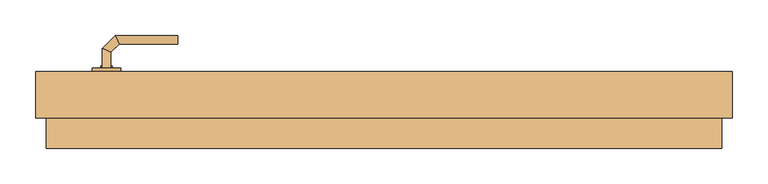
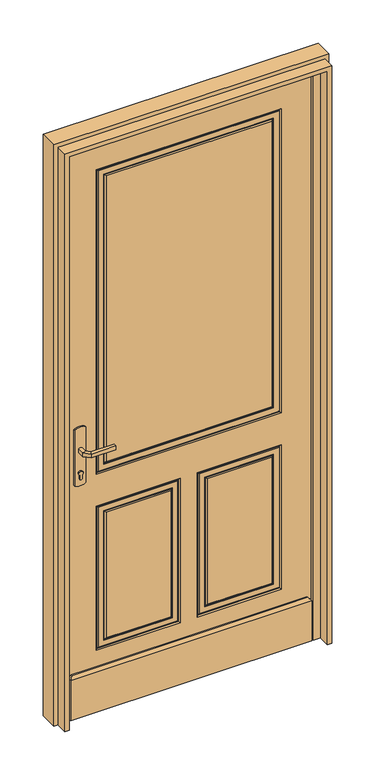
"""IFC4 building model written with IfcOpenShell, lengths in millimetres: door geometry, Entrée (avec angle d'ouverture) : PP Avec moulures (0.90 m x 2.15 m)."""

from ifc_helpers import new_model, si_unit, point, frame, frame_2d, origin, place, context, project, spatial, polyline, circle_curve, ellipse_curve, trimmed, segment, composite_curve, outline, extrude, faceted_brep, source, transform, mapped, element, save
from ifc_brep_helpers import plane_surface, cylinder_surface, advanced_brep


def door_280daffa(model_context):
    return source(origin(), model_context, "Body", "SolidModel", [
        extrude(outline(composite_curve([segment(trimmed(circle_curve(frame_2d((904.6410162, -400.0)), 40.0), [point((870.0, -420.0))], [point((870.0, -380.0))], False, "CARTESIAN"), True, "CONTINUOUS"), segment(polyline([(870.0, -380.0), (1080.0, -380.0)]), True, "CONTINUOUS"), segment(trimmed(circle_curve(frame_2d((1045.3589838, -400.0)), 40.0), [point((1080.0, -380.0))], [point((1080.0, -420.0))], False, "CARTESIAN"), True, "CONTINUOUS"), segment(polyline([(1080.0, -420.0), (870.0, -420.0)]), True, "CONTINUOUS")], self_intersect=False)), frame((0.0, 98.0, 0.0), z_axis=(0.0, 1.0, 0.0), x_axis=(0.0, 0.0, 1.0)), (0.0, 0.0, 1.0), 5.0),
        extrude(outline(composite_curve([segment(trimmed(circle_curve(frame_2d((1045.3589838, -400.0)), 40.0), [point((1080.0, -380.0))], [point((1080.0, -420.0))], False, "CARTESIAN"), True, "CONTINUOUS"), segment(polyline([(1080.0, -420.0), (870.0, -420.0)]), True, "CONTINUOUS"), segment(trimmed(circle_curve(frame_2d((904.6410162, -400.0)), 40.0), [point((870.0, -420.0))], [point((870.0, -380.0))], False, "CARTESIAN"), True, "CONTINUOUS"), segment(polyline([(870.0, -380.0), (1080.0, -380.0)]), True, "CONTINUOUS")], self_intersect=False)), frame((0.0, 43.0, 0.0), z_axis=(0.0, 1.0, 0.0), x_axis=(0.0, 0.0, 1.0)), (0.0, 0.0, 1.0), 5.0),
        advanced_brep(
        [(-406.0, 103.0, 1007.0), (-406.0, 103.0, 993.0), (-394.0, 103.0, 993.0), (-394.0, 103.0, 1007.0), (-394.0, 125.680388, 1007.0), (-406.0, 130.6509507, 1007.0), (-394.0, 125.680388, 993.0), (-406.0, 130.6509507, 993.0), (-382.6522273, 137.0281607, 1007.0), (-387.62279, 149.0281607, 1007.0), (-382.6522273, 137.0281607, 993.0), (-387.62279, 149.0281607, 993.0), (-299.9813594, 149.0281607, 1007.0), (-299.9813594, 137.0281607, 1007.0), (-299.9813594, 137.0281607, 993.0), (-299.9813594, 149.0281607, 993.0)],
        [
            (0, 1),
            (1, 2, circle_curve(frame((-400.0, 103.0, 1013.0457722), z_axis=(0.0, -1.0, 0.0), x_axis=(1.0, 0.0, 0.0)), 20.9244589)),
            (2, 3),
            (3, 0, circle_curve(frame((-400.0, 103.0, 986.9542278), z_axis=(0.0, -1.0, 0.0), x_axis=(1.0, 0.0, 0.0)), 20.9244589)),
            (3, 4),
            (4, 5, ellipse_curve(frame((-400.0, 128.1656693, 986.9542278), z_axis=(-0.3826834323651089, -0.9238795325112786, 0.0), x_axis=(0.9238795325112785, -0.3826834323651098, 0.0)), 22.6484711, 20.9244589)),
            (5, 0),
            (2, 6),
            (6, 4),
            (1, 7),
            (7, 6, ellipse_curve(frame((-400.0, 128.1656693, 1013.0457722), z_axis=(-0.3826834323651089, -0.9238795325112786, 0.0), x_axis=(0.9238795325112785, -0.3826834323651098, 0.0)), 22.6484711, 20.9244589)),
            (5, 7),
            (4, 8),
            (8, 9, ellipse_curve(frame((-385.1375087, 143.0281607, 986.9542278), z_axis=(-0.9238795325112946, -0.38268343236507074, 0.0), x_axis=(0.3826834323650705, -0.9238795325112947, 0.0)), 22.6484711, 20.9244589)),
            (9, 5),
            (6, 10),
            (10, 8),
            (7, 11),
            (11, 10, ellipse_curve(frame((-385.1375087, 143.0281607, 1013.0457722), z_axis=(-0.9238795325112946, -0.38268343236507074, 0.0), x_axis=(0.3826834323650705, -0.9238795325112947, 0.0)), 22.6484711, 20.9244589)),
            (9, 11),
            (12, 13, circle_curve(frame((-299.9813594, 143.0281607, 986.9542278), z_axis=(1.0, 0.0, 0.0), x_axis=(0.0, -1.0, 0.0)), 20.9244589)),
            (13, 14),
            (14, 15, circle_curve(frame((-299.9813594, 143.0281607, 1013.0457722), z_axis=(1.0, 0.0, 0.0), x_axis=(0.0, -1.0, 0.0)), 20.9244589)),
            (15, 12),
            (8, 13),
            (12, 9),
            (10, 14),
            (11, 15),
        ],
        [
            plane_surface(frame((-409.2195445, 103.0, 1000.0), z_axis=(0.0, -1.0, 0.0), x_axis=(0.0, 0.0, -1.0))),
            cylinder_surface(frame((-400.0, 103.0, 986.9542278), z_axis=(0.0, -1.0, 0.0), x_axis=(1.0, 0.0, 0.0)), 20.9244589),
            plane_surface(frame((-394.0, 103.0, 1007.0), z_axis=(1.0, 0.0, 0.0), x_axis=(0.0, 1.0, 0.0))),
            cylinder_surface(frame((-400.0, 103.0, 1013.0457722), z_axis=(0.0, -1.0, 0.0), x_axis=(1.0, 0.0, 0.0)), 20.9244589),
            plane_surface(frame((-406.0, 103.0, 993.0), z_axis=(-1.0, 0.0, 0.0), x_axis=(0.0, 1.0, 0.0))),
            cylinder_surface(frame((-400.0, 128.1656693, 986.9542278), z_axis=(-0.7071067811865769, -0.7071067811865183, 0.0), x_axis=(0.7071067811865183, -0.7071067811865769, 0.0)), 20.9244589),
            plane_surface(frame((-394.0, 125.680388, 1007.0), z_axis=(0.7071067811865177, -0.7071067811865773, 0.0), x_axis=(0.7071067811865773, 0.7071067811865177, 0.0))),
            cylinder_surface(frame((-400.0, 128.1656693, 1013.0457722), z_axis=(-0.7071067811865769, -0.7071067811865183, 0.0), x_axis=(0.7071067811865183, -0.7071067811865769, 0.0)), 20.9244589),
            plane_surface(frame((-406.0, 130.6509507, 993.0), z_axis=(-0.7071067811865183, 0.7071067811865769, 0.0), x_axis=(0.7071067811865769, 0.7071067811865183, 0.0))),
            plane_surface(frame((-299.9813594, 143.0281607, 990.7804555), z_axis=(1.0, 0.0, 0.0), x_axis=(0.0, -1.0, 0.0))),
            cylinder_surface(frame((-385.1375087, 143.0281607, 986.9542278), z_axis=(-1.0, 0.0, 0.0), x_axis=(0.0, -1.0, 0.0)), 20.9244589),
            plane_surface(frame((-382.6522273, 137.0281607, 1007.0), z_axis=(0.0, -1.0, 0.0), x_axis=(1.0, 0.0, 0.0))),
            cylinder_surface(frame((-385.1375087, 143.0281607, 1013.0457722), z_axis=(-1.0, 0.0, 0.0), x_axis=(0.0, -1.0, 0.0)), 20.9244589),
            plane_surface(frame((-387.62279, 149.0281607, 993.0), z_axis=(0.0, 1.0, 0.0), x_axis=(1.0, 0.0, 0.0))),
        ],
        [
            (0, [[1, 2, 3, 4]]),
            (1, [[5, 6, 7, -4]]),
            (2, [[8, 9, -5, -3]]),
            (3, [[10, 11, -8, -2]]),
            (4, [[-7, 12, -10, -1]]),
            (5, [[13, 14, 15, -6]]),
            (6, [[16, 17, -13, -9]]),
            (7, [[18, 19, -16, -11]]),
            (8, [[-15, 20, -18, -12]]),
            (9, [[21, 22, 23, 24]]),
            (10, [[25, -21, 26, -14]]),
            (11, [[27, -22, -25, -17]]),
            (12, [[28, -23, -27, -19]]),
            (13, [[-26, -24, -28, -20]]),
        ],
    ),
        advanced_brep(
        [(-394.0, 43.0, 993.0), (-406.0, 43.0, 993.0), (-406.0, 43.0, 1007.0), (-394.0, 43.0, 1007.0), (-394.0, 20.5147955, 1007.0), (-394.0, 20.5147955, 993.0), (-406.0, 15.5442327, 1007.0), (-406.0, 15.5442327, 993.0), (-382.5147186, 9.0295141, 1007.0), (-382.5147186, 9.0295141, 993.0), (-387.4852814, -2.9704859, 1007.0), (-387.4852814, -2.9704859, 993.0), (-299.9542164, 9.0295141, 993.0), (-299.9542164, 9.0295141, 1007.0), (-299.9542164, -2.9704859, 1007.0), (-299.9542164, -2.9704859, 993.0)],
        [
            (0, 1, circle_curve(frame((-400.0, 43.0, 1013.0457722), z_axis=(0.0, 1.0, 0.0), x_axis=(-1.0, 0.0, 0.0)), 20.9244589)),
            (1, 2),
            (2, 3, circle_curve(frame((-400.0, 43.0, 986.9542278), z_axis=(0.0, 1.0, 0.0), x_axis=(-1.0, 0.0, 0.0)), 20.9244589)),
            (3, 0),
            (3, 4),
            (4, 5),
            (5, 0),
            (2, 6),
            (6, 4, ellipse_curve(frame((-400.0, 18.0295141, 986.9542278), z_axis=(-0.3826834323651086, 0.923879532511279, 0.0), x_axis=(0.9238795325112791, 0.3826834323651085, 0.0)), 22.6484711, 20.9244589)),
            (1, 7),
            (7, 6),
            (5, 7, ellipse_curve(frame((-400.0, 18.0295141, 1013.0457722), z_axis=(-0.3826834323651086, 0.923879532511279, 0.0), x_axis=(0.9238795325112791, 0.3826834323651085, 0.0)), 22.6484711, 20.9244589)),
            (4, 8),
            (8, 9),
            (9, 5),
            (6, 10),
            (10, 8, ellipse_curve(frame((-385.0, 3.0295141, 986.9542278), z_axis=(-0.9238795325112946, 0.38268343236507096, 0.0), x_axis=(0.3826834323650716, 0.9238795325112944, 0.0)), 22.6484711, 20.9244589)),
            (7, 11),
            (11, 10),
            (9, 11, ellipse_curve(frame((-385.0, 3.0295141, 1013.0457722), z_axis=(-0.9238795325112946, 0.38268343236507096, 0.0), x_axis=(0.3826834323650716, 0.9238795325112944, 0.0)), 22.6484711, 20.9244589)),
            (12, 13),
            (13, 14, circle_curve(frame((-299.9542164, 3.0295141, 986.9542278), z_axis=(1.0, 0.0, 0.0), x_axis=(0.0, -1.0, 0.0)), 20.9244589)),
            (14, 15),
            (15, 12, circle_curve(frame((-299.9542164, 3.0295141, 1013.0457722), z_axis=(1.0, 0.0, 0.0), x_axis=(0.0, -1.0, 0.0)), 20.9244589)),
            (8, 13),
            (12, 9),
            (10, 14),
            (11, 15),
        ],
        [
            plane_surface(frame((-409.2195445, 43.0, 1000.0), z_axis=(0.0, 1.0, 0.0), x_axis=(0.0, 0.0, 1.0))),
            plane_surface(frame((-394.0, 43.0, 993.0), z_axis=(1.0, 0.0, 0.0), x_axis=(0.0, -1.0, 0.0))),
            cylinder_surface(frame((-400.0, 43.0, 986.9542278), z_axis=(0.0, 1.0, 0.0), x_axis=(-1.0, 0.0, 0.0)), 20.9244589),
            plane_surface(frame((-406.0, 43.0, 1007.0), z_axis=(-1.0, 0.0, 0.0), x_axis=(0.0, -1.0, 0.0))),
            cylinder_surface(frame((-400.0, 43.0, 1013.0457722), z_axis=(0.0, 1.0, 0.0), x_axis=(-1.0, 0.0, 0.0)), 20.9244589),
            plane_surface(frame((-394.0, 20.5147955, 993.0), z_axis=(0.7071067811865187, 0.7071067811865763, 0.0), x_axis=(0.7071067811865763, -0.7071067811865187, 0.0))),
            cylinder_surface(frame((-400.0, 18.0295141, 986.9542278), z_axis=(-0.7071067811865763, 0.7071067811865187, 0.0), x_axis=(-0.7071067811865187, -0.7071067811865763, 0.0)), 20.9244589),
            plane_surface(frame((-406.0, 15.5442327, 1007.0), z_axis=(-0.7071067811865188, -0.7071067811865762, 0.0), x_axis=(0.7071067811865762, -0.7071067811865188, 0.0))),
            cylinder_surface(frame((-400.0, 18.0295141, 1013.0457722), z_axis=(-0.7071067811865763, 0.7071067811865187, 0.0), x_axis=(-0.7071067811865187, -0.7071067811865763, 0.0)), 20.9244589),
            plane_surface(frame((-299.9542164, 3.0295141, 990.7804555), z_axis=(1.0, 0.0, 0.0), x_axis=(0.0, -1.0, 0.0))),
            plane_surface(frame((-382.5147186, 9.0295141, 993.0), z_axis=(0.0, 1.0, 0.0), x_axis=(1.0, 0.0, 0.0))),
            cylinder_surface(frame((-385.0, 3.0295141, 986.9542278), z_axis=(-1.0, 0.0, 0.0), x_axis=(0.0, -1.0, 0.0)), 20.9244589),
            plane_surface(frame((-387.4852814, -2.9704859, 1007.0), z_axis=(0.0, -1.0, 0.0), x_axis=(1.0, 0.0, 0.0))),
            cylinder_surface(frame((-385.0, 3.0295141, 1013.0457722), z_axis=(-1.0, 0.0, 0.0), x_axis=(0.0, -1.0, 0.0)), 20.9244589),
        ],
        [
            (0, [[1, 2, 3, 4]]),
            (1, [[5, 6, 7, -4]]),
            (2, [[8, 9, -5, -3]]),
            (3, [[10, 11, -8, -2]]),
            (4, [[-7, 12, -10, -1]]),
            (5, [[13, 14, 15, -6]]),
            (6, [[16, 17, -13, -9]]),
            (7, [[18, 19, -16, -11]]),
            (8, [[-15, 20, -18, -12]]),
            (9, [[21, 22, 23, 24]]),
            (10, [[25, -21, 26, -14]]),
            (11, [[27, -22, -25, -17]]),
            (12, [[28, -23, -27, -19]]),
            (13, [[-26, -24, -28, -20]]),
        ],
    ),
        extrude(outline(composite_curve([segment(polyline([(908.0464422, -405.0), (895.0, -405.0)]), True, "CONTINUOUS"), segment(trimmed(circle_curve(frame_2d((895.0, -400.0)), 5.0), [point((895.0, -405.0))], [point((895.0, -395.0))], False, "CARTESIAN"), True, "CONTINUOUS"), segment(polyline([(895.0, -395.0), (908.0464422, -395.0)]), True, "CONTINUOUS"), segment(trimmed(circle_curve(frame_2d((914.2914402, -400.0)), 8.0), [point((908.0464422, -395.0))], [point((908.0464422, -405.0))], False, "CARTESIAN"), True, "CONTINUOUS")], self_intersect=False)), frame((0.0, 103.0, 0.0), z_axis=(0.0, 1.0, 0.0), x_axis=(0.0, 0.0, 1.0)), (0.0, 0.0, 1.0), 3.0),
        extrude(outline(composite_curve([segment(polyline([(908.0464422, -405.0), (895.0, -405.0)]), True, "CONTINUOUS"), segment(trimmed(circle_curve(frame_2d((895.0, -400.0)), 5.0), [point((895.0, -405.0))], [point((895.0, -395.0))], False, "CARTESIAN"), True, "CONTINUOUS"), segment(polyline([(895.0, -395.0), (908.0464422, -395.0)]), True, "CONTINUOUS"), segment(trimmed(circle_curve(frame_2d((914.2914402, -400.0)), 8.0), [point((908.0464422, -395.0))], [point((908.0464422, -405.0))], False, "CARTESIAN"), True, "CONTINUOUS")], self_intersect=False)), frame((0.0, 38.0, 0.0), z_axis=(0.0, 1.0, 0.0), x_axis=(0.0, 0.0, 1.0)), (0.0, 0.0, 1.0), 5.0),
        faceted_brep([(440.0, 98.0, 2150.0), (440.0, 98.0, 0.0), (-460.0, 98.0, 0.0), (-460.0, 98.0, 2150.0), (440.0, 48.0, 2150.0), (-460.0, 48.0, 2150.0), (-460.0, 48.0, 0.0), (440.0, 48.0, 0.0), (-340.0, 48.0, 2030.0), (320.0, 48.0, 2030.0), (320.0, 48.0, 883.3333333), (-340.0, 48.0, 883.3333333), (20.0, 48.0, 763.3333333), (320.0, 48.0, 763.3333333), (320.0, 48.0, 220.0), (20.0, 48.0, 220.0), (-340.0, 48.0, 763.3333333), (-40.0, 48.0, 763.3333333), (-40.0, 48.0, 220.0), (-340.0, 48.0, 220.0), (-305.0, 48.0, 918.3333333), (285.0, 48.0, 918.3333333), (285.0, 48.0, 1995.0), (-305.0, 48.0, 1995.0), (55.0, 48.0, 255.0), (285.0, 48.0, 255.0), (285.0, 48.0, 728.3333333), (55.0, 48.0, 728.3333333), (-305.0, 48.0, 255.0), (-75.0, 48.0, 255.0), (-75.0, 48.0, 728.3333333), (-305.0, 48.0, 728.3333333), (-336.4644661, 51.5355339, 886.8688672), (-336.4644661, 51.5355339, 2026.4644661), (-308.5355339, 51.5355339, 914.7977994), (-308.5355339, 51.5355339, 1998.5355339), (-312.6388478, 49.8966861, 910.6944856), (-311.0, 51.5355339, 912.3333333), (-311.0, 51.5355339, 2001.0), (-312.6388478, 49.8966861, 2002.6388478), (-334.0, 51.5355339, 889.3333333), (-332.3611522, 49.8966861, 890.9721811), (-332.3611522, 49.8966861, 2022.3611522), (-334.0, 51.5355339, 2024.0), (316.4644661, 51.5355339, 2026.4644661), (288.5355339, 51.5355339, 1998.5355339), (291.0, 51.5355339, 2001.0), (292.6388478, 49.8966861, 2002.6388478), (312.3611522, 49.8966861, 2022.3611522), (314.0, 51.5355339, 2024.0), (316.4644661, 51.5355339, 886.8688672), (288.5355339, 51.5355339, 914.7977994), (291.0, 51.5355339, 912.3333333), (292.6388478, 49.8966861, 910.6944856), (312.3611522, 49.8966861, 890.9721811), (314.0, 51.5355339, 889.3333333), (23.5355339, 51.5355339, 223.5355339), (23.5355339, 51.5355339, 759.7977994), (51.4644661, 51.5355339, 251.4644661), (51.4644661, 51.5355339, 731.8688672), (47.3611522, 49.8966861, 247.3611522), (49.0, 51.5355339, 249.0), (49.0, 51.5355339, 734.3333333), (47.3611522, 49.8966861, 735.9721811), (26.0, 51.5355339, 226.0), (27.6388478, 49.8966861, 227.6388478), (27.6388478, 49.8966861, 755.6944856), (26.0, 51.5355339, 757.3333333), (316.4644661, 51.5355339, 759.7977994), (288.5355339, 51.5355339, 731.8688672), (291.0, 51.5355339, 734.3333333), (292.6388478, 49.8966861, 735.9721811), (312.3611522, 49.8966861, 755.6944856), (314.0, 51.5355339, 757.3333333), (316.4644661, 51.5355339, 223.5355339), (288.5355339, 51.5355339, 251.4644661), (291.0, 51.5355339, 249.0), (292.6388478, 49.8966861, 247.3611522), (312.3611522, 49.8966861, 227.6388478), (314.0, 51.5355339, 226.0), (-336.4644661, 51.5355339, 223.5355339), (-336.4644661, 51.5355339, 759.7977994), (-308.5355339, 51.5355339, 251.4644661), (-308.5355339, 51.5355339, 731.8688672), (-312.6388478, 49.8966861, 247.3611522), (-311.0, 51.5355339, 249.0), (-311.0, 51.5355339, 734.3333333), (-312.6388478, 49.8966861, 735.9721811), (-334.0, 51.5355339, 226.0), (-332.3611522, 49.8966861, 227.6388478), (-332.3611522, 49.8966861, 755.6944856), (-334.0, 51.5355339, 757.3333333), (-43.5355339, 51.5355339, 759.7977994), (-71.4644661, 51.5355339, 731.8688672), (-69.0, 51.5355339, 734.3333333), (-67.3611522, 49.8966861, 735.9721811), (-47.6388478, 49.8966861, 755.6944856), (-46.0, 51.5355339, 757.3333333), (-43.5355339, 51.5355339, 223.5355339), (-71.4644661, 51.5355339, 251.4644661), (-69.0, 51.5355339, 249.0), (-67.3611522, 49.8966861, 247.3611522), (-47.6388478, 49.8966861, 227.6388478), (-46.0, 51.5355339, 226.0)], [[[0, 1, 2, 3]], [[4, 5, 6, 7], [8, 9, 10, 11], [12, 13, 14, 15], [16, 17, 18, 19]], [[20, 21, 22, 23]], [[24, 25, 26, 27]], [[28, 29, 30, 31]], [[3, 5, 4, 0]], [[2, 6, 5, 3]], [[1, 7, 6, 2]], [[0, 4, 7, 1]], [[8, 11, 32, 33]], [[34, 20, 23, 35]], [[36, 37, 38, 39]], [[40, 41, 42, 43]], [[33, 44, 9, 8]], [[23, 22, 45, 35]], [[38, 46, 47, 39]], [[42, 48, 49, 43]], [[44, 50, 10, 9]], [[22, 21, 51, 45]], [[46, 52, 53, 47]], [[48, 54, 55, 49]], [[11, 10, 50, 32]], [[34, 51, 21, 20]], [[37, 52, 46, 38], [35, 45, 51, 34]], [[36, 53, 52, 37]], [[41, 54, 48, 42], [39, 47, 53, 36]], [[40, 55, 54, 41]], [[32, 50, 44, 33], [43, 49, 55, 40]], [[12, 15, 56, 57]], [[58, 24, 27, 59]], [[60, 61, 62, 63]], [[64, 65, 66, 67]], [[57, 68, 13, 12]], [[27, 26, 69, 59]], [[62, 70, 71, 63]], [[66, 72, 73, 67]], [[68, 74, 14, 13]], [[26, 25, 75, 69]], [[70, 76, 77, 71]], [[72, 78, 79, 73]], [[15, 14, 74, 56]], [[58, 75, 25, 24]], [[61, 76, 70, 62], [59, 69, 75, 58]], [[60, 77, 76, 61]], [[65, 78, 72, 66], [63, 71, 77, 60]], [[64, 79, 78, 65]], [[56, 74, 68, 57], [67, 73, 79, 64]], [[16, 19, 80, 81]], [[82, 28, 31, 83]], [[84, 85, 86, 87]], [[88, 89, 90, 91]], [[81, 92, 17, 16]], [[31, 30, 93, 83]], [[86, 94, 95, 87]], [[90, 96, 97, 91]], [[92, 98, 18, 17]], [[30, 29, 99, 93]], [[94, 100, 101, 95]], [[96, 102, 103, 97]], [[19, 18, 98, 80]], [[82, 99, 29, 28]], [[85, 100, 94, 86], [83, 93, 99, 82]], [[84, 101, 100, 85]], [[89, 102, 96, 90], [87, 95, 101, 84]], [[88, 103, 102, 89]], [[80, 98, 92, 81], [91, 97, 103, 88]]]),
        faceted_brep([(-440.0, 48.0, 0.0), (-440.0, 48.0, 150.0), (-430.0, 48.0, 160.0), (410.0, 48.0, 160.0), (420.0, 48.0, 150.0), (420.0, 48.0, 0.0), (420.0, 33.0, 0.0), (420.0, 33.0, 150.0), (-440.0, 33.0, 150.0), (-440.0, 33.0, 0.0), (-430.0, 43.0, 160.0), (410.0, 43.0, 160.0)], [[[0, 1, 2, 3, 4, 5]], [[6, 7, 8, 9]], [[9, 8, 1, 0]], [[5, 6, 9, 0]], [[5, 4, 7, 6]], [[2, 10, 11, 3]], [[7, 4, 3, 11]], [[11, 10, 8, 7]], [[10, 2, 1, 8]]]),
        faceted_brep([(-500.0, 33.0, 0.0), (-500.0, 98.0, 0.0), (-460.0, 98.0, 0.0), (-460.0, 48.0, 0.0), (-445.0, 48.0, 0.0), (-445.0, 33.0, 0.0), (-445.0, 33.0, 2135.0), (425.0, 33.0, 2135.0), (425.0, 33.0, 0.0), (480.0, 33.0, 0.0), (480.0, 33.0, 2190.0), (-500.0, 33.0, 2190.0), (-445.0, 48.0, 2135.0), (-460.0, 48.0, 2150.0), (440.0, 48.0, 2150.0), (440.0, 48.0, 0.0), (425.0, 48.0, 0.0), (425.0, 48.0, 2135.0), (-460.0, 98.0, 2150.0), (-500.0, 98.0, 2190.0), (480.0, 98.0, 2190.0), (480.0, 98.0, 0.0), (440.0, 98.0, 0.0), (440.0, 98.0, 2150.0)], [[[0, 1, 2, 3, 4, 5]], [[5, 6, 7, 8, 9, 10, 11, 0]], [[4, 12, 6, 5]], [[3, 13, 14, 15, 16, 17, 12, 4]], [[2, 18, 13, 3]], [[1, 19, 20, 21, 22, 23, 18, 2]], [[0, 11, 19, 1]], [[10, 9, 21, 20]], [[9, 8, 16, 15, 22, 21]], [[17, 16, 8, 7]], [[23, 22, 15, 14]], [[12, 17, 7, 6]], [[18, 23, 14, 13]], [[11, 10, 20, 19]]]),
        extrude(outline(polyline([(0.0, -470.0), (2160.0, -470.0), (2160.0, 450.0), (0.0, 450.0), (0.0, 465.0), (2175.0, 465.0), (2175.0, -485.0), (0.0, -485.0), (0.0, -470.0)])), frame((0.0, -10.0, 0.0), z_axis=(0.0, 1.0, 0.0), x_axis=(0.0, 0.0, 1.0)), (0.0, 0.0, 1.0), 43.0),
    ])


if __name__ == "__main__":
    model = new_model("IFC4")
    model_context = context("Model", 3, world=origin())
    ifc_project = project(units=[si_unit("LENGTHUNIT", "METRE", prefix="MILLI")], contexts=[model_context])
    site = spatial("IfcSite", under=ifc_project)
    building = spatial("IfcBuilding", under=site)
    placement = place(None, origin())
    door_shape = door_280daffa(model_context)
    element("IfcDoor", 1, ObjectType="Entrée (avec angle d'ouverture) : PP Avec moulures (0.90 m x 2.15 m)", at=placement, inside=building, context=model_context, shape_type="MappedRepresentation", body=[
        mapped(door_shape, transform((0.0, 0.0, 0.0), x_axis=(1.0, 0.0, 0.0), y_axis=(0.0, 1.0, 0.0), z_axis=(0.0, 0.0, 1.0))),
    ])
    save(model, "model.ifc")
